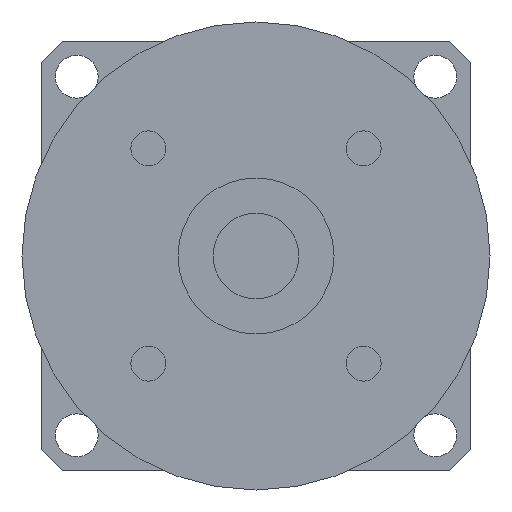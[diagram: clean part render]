
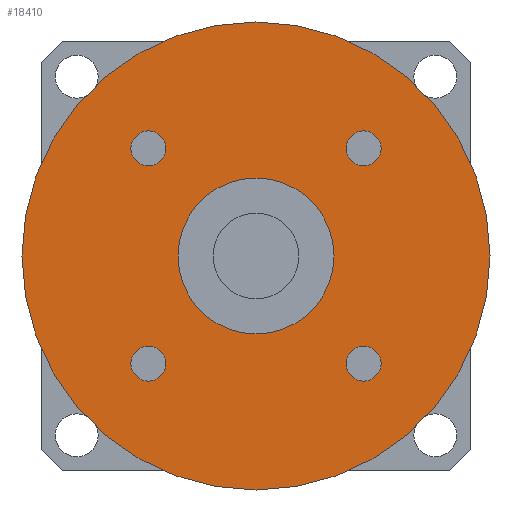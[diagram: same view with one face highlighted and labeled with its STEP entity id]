
A CAD part, left-side view. The second image highlights one B-rep face of the part: STEP entity #18410.
In plain terms, the highlighted planar face has unit normal (-1, 0, 0) as drawn and (0, 0, -1) by its records, which use the part's own axes.
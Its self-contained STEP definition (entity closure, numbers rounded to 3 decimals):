
#11050=CARTESIAN_POINT('',(0.,0.,
-58.));
#11060=DIRECTION('',(0.,0.,1.));
#11070=DIRECTION('',(0.,-1.,0.));
#11080=AXIS2_PLACEMENT_3D('',#11050,#11060,#11070);
#11090=CIRCLE('',#11080,10.);
#11100=CARTESIAN_POINT('',(0.,-10.,-58.));
#11110=VERTEX_POINT('',#11100);
#11120=CARTESIAN_POINT('',(10.,0.,-58.))
;
#11130=VERTEX_POINT('',#11120);
#11140=EDGE_CURVE('',#11110,#11130,#11090,.T.);
#11370=CARTESIAN_POINT('',(-10.,0.,-58.));
#11380=VERTEX_POINT('',#11370);
#11410=EDGE_CURVE('',#11380,#11110,#11090,.T.);
#12740=CARTESIAN_POINT('',(13.789,-11.539,-58.));
#12750=VERTEX_POINT('',#12740);
#12930=CARTESIAN_POINT('',(13.789,-16.039,-58.));
#12940=VERTEX_POINT('',#12930);
#12970=CARTESIAN_POINT('',(13.789,-13.789,-58.));
#12980=DIRECTION('',(0.,0.,-1.));
#12990=DIRECTION('',(1.,0.,0.));
#13000=AXIS2_PLACEMENT_3D('',#12970,#12980,#12990);
#13010=CIRCLE('',#13000,2.25);
#13020=CARTESIAN_POINT('',(16.039,-13.789,-58.));
#13030=VERTEX_POINT('',#13020);
#13040=EDGE_CURVE('',#13030,#12940,#13010,.T.);
#13060=EDGE_CURVE('',#12750,#13030,#13010,.T.);
#17340=CARTESIAN_POINT('',(30.,0.,-58.));
#17350=VERTEX_POINT('',#17340);
#17380=CARTESIAN_POINT('',(0.,0.,
-58.));
#17390=DIRECTION('',(0.,0.,1.));
#17400=DIRECTION('',(0.,-1.,0.));
#17410=AXIS2_PLACEMENT_3D('',#17380,#17390,#17400);
#17420=CIRCLE('',#17410,30.);
#17430=CARTESIAN_POINT('',(0.,-30.,-58.));
#17440=VERTEX_POINT('',#17430);
#17450=EDGE_CURVE('',#17440,#17350,#17420,.T.);
#17470=CARTESIAN_POINT('',(-30.,0.,-58.));
#17480=VERTEX_POINT('',#17470);
#17490=EDGE_CURVE('',#17480,#17440,#17420,.T.);
#17610=CARTESIAN_POINT('',(0.,0.,
-58.));
#17620=DIRECTION('',(0.,0.,1.));
#17630=DIRECTION('',(-1.,0.,0.));
#17640=AXIS2_PLACEMENT_3D('',#17610,#17620,#17630);
#17650=PLANE('',#17640);
#17660=CARTESIAN_POINT('',(13.789,13.789,-58.));
#17670=DIRECTION('',(0.,0.,-1.));
#17680=DIRECTION('',(0.,1.,0.));
#17690=AXIS2_PLACEMENT_3D('',#17660,#17670,#17680);
#17700=CIRCLE('',#17690,2.25);
#17710=CARTESIAN_POINT('',(13.789,16.039,-58.));
#17720=VERTEX_POINT('',#17710);
#17730=CARTESIAN_POINT('',(16.039,13.789,-58.));
#17740=VERTEX_POINT('',#17730);
#17750=EDGE_CURVE('',#17720,#17740,#17700,.T.);
#17760=ORIENTED_EDGE('',*,*,#17750,.F.);
#17770=CARTESIAN_POINT('',(11.539,13.789,-58.));
#17780=VERTEX_POINT('',#17770);
#17790=EDGE_CURVE('',#17740,#17780,#17700,.T.);
#17800=ORIENTED_EDGE('',*,*,#17790,.F.);
#17810=EDGE_CURVE('',#17780,#17720,#17700,.T.);
#17820=ORIENTED_EDGE('',*,*,#17810,.F.);
#17830=EDGE_LOOP('',(#17820,#17800,#17760));
#17840=FACE_BOUND('',#17830,.T.);
#17850=CARTESIAN_POINT('',(-13.789,13.789,-58.));
#17860=DIRECTION('',(0.,0.,-1.));
#17870=DIRECTION('',(-1.,0.,0.));
#17880=AXIS2_PLACEMENT_3D('',#17850,#17860,#17870);
#17890=CIRCLE('',#17880,2.25);
#17900=CARTESIAN_POINT('',(-16.039,13.789,-58.));
#17910=VERTEX_POINT('',#17900);
#17920=CARTESIAN_POINT('',(-13.789,16.039,-58.));
#17930=VERTEX_POINT('',#17920);
#17940=EDGE_CURVE('',#17910,#17930,#17890,.T.);
#17950=ORIENTED_EDGE('',*,*,#17940,.F.);
#17960=CARTESIAN_POINT('',(-13.789,11.539,-58.));
#17970=VERTEX_POINT('',#17960);
#17980=EDGE_CURVE('',#17930,#17970,#17890,.T.);
#17990=ORIENTED_EDGE('',*,*,#17980,.F.);
#18000=EDGE_CURVE('',#17970,#17910,#17890,.T.);
#18010=ORIENTED_EDGE('',*,*,#18000,.F.);
#18020=EDGE_LOOP('',(#18010,#17990,#17950));
#18030=FACE_BOUND('',#18020,.T.);
#18040=CARTESIAN_POINT('',(-13.789,-13.789,-58.));
#18050=DIRECTION('',(0.,0.,-1.));
#18060=DIRECTION('',(0.,-1.,0.));
#18070=AXIS2_PLACEMENT_3D('',#18040,#18050,#18060);
#18080=CIRCLE('',#18070,2.25);
#18090=CARTESIAN_POINT('',(-13.789,-16.039,-58.));
#18100=VERTEX_POINT('',#18090);
#18110=CARTESIAN_POINT('',(-16.039,-13.789,-58.));
#18120=VERTEX_POINT('',#18110);
#18130=EDGE_CURVE('',#18100,#18120,#18080,.T.);
#18140=ORIENTED_EDGE('',*,*,#18130,.F.);
#18150=CARTESIAN_POINT('',(-11.539,-13.789,-58.));
#18160=VERTEX_POINT('',#18150);
#18170=EDGE_CURVE('',#18120,#18160,#18080,.T.);
#18180=ORIENTED_EDGE('',*,*,#18170,.F.);
#18190=EDGE_CURVE('',#18160,#18100,#18080,.T.);
#18200=ORIENTED_EDGE('',*,*,#18190,.F.);
#18210=EDGE_LOOP('',(#18200,#18180,#18140));
#18220=FACE_BOUND('',#18210,.T.);
#18230=EDGE_CURVE('',#11130,#11380,#11090,.T.);
#18240=ORIENTED_EDGE('',*,*,#18230,.T.);
#18250=ORIENTED_EDGE('',*,*,#11140,.T.);
#18260=ORIENTED_EDGE('',*,*,#11410,.T.);
#18270=EDGE_LOOP('',(#18260,#18250,#18240));
#18280=FACE_BOUND('',#18270,.T.);
#18290=ORIENTED_EDGE('',*,*,#13040,.F.);
#18300=EDGE_CURVE('',#12940,#12750,#13010,.T.);
#18310=ORIENTED_EDGE('',*,*,#18300,.F.);
#18320=ORIENTED_EDGE('',*,*,#13060,.F.);
#18330=EDGE_LOOP('',(#18320,#18310,#18290));
#18340=FACE_BOUND('',#18330,.T.);
#18350=ORIENTED_EDGE('',*,*,#17450,.F.);
#18360=EDGE_CURVE('',#17350,#17480,#17420,.T.);
#18370=ORIENTED_EDGE('',*,*,#18360,.F.);
#18380=ORIENTED_EDGE('',*,*,#17490,.F.);
#18390=EDGE_LOOP('',(#18380,#18370,#18350));
#18400=FACE_OUTER_BOUND('',#18390,.T.);
#18410=ADVANCED_FACE('',(#17840,#18030,#18220,#18280,#18340,#18400),
#17650,.F.);
